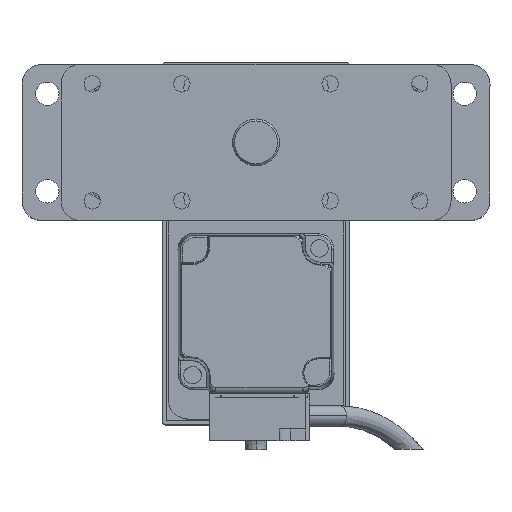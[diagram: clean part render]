
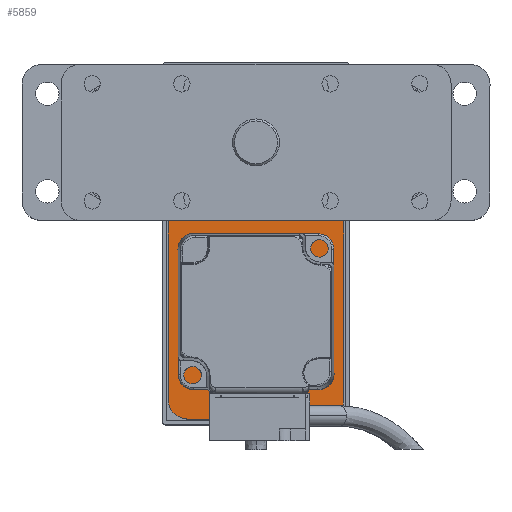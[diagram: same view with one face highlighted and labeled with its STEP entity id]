
A CAD part, top view. The second image highlights one B-rep face of the part: STEP entity #5859.
In plain terms, the highlighted planar face has unit normal (0, 0, 1).
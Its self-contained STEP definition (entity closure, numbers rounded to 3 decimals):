
#392 = EDGE_CURVE ( 'NONE', #19801, #19580, #11770, .T. ) ;
#737 = ORIENTED_EDGE ( 'NONE', *, *, #6551, .T. ) ;
#802 = VECTOR ( 'NONE', #18304, 1000. ) ;
#1427 = CARTESIAN_POINT ( 'NONE',  ( 22.5, -45., 10. ) ) ;
#1587 = PLANE ( 'NONE',  #5575 ) ;
#1898 = DIRECTION ( 'NONE',  ( 0., 0., 1. ) ) ;
#2042 = CARTESIAN_POINT ( 'NONE',  ( 22.5, -40., 10. ) ) ;
#2904 = DIRECTION ( 'NONE',  ( 0., -1., 0. ) ) ;
#3470 = DIRECTION ( 'NONE',  ( 1., 0., 0. ) ) ;
#3873 = EDGE_LOOP ( 'NONE', ( #19071, #15922, #7098, #22520, #4823, #23550, #23201, #737 ) ) ;
#4367 = CIRCLE ( 'NONE', #28125, 5. ) ;
#4460 = VERTEX_POINT ( 'NONE', #2042 ) ;
#4823 = ORIENTED_EDGE ( 'NONE', *, *, #15568, .T. ) ;
#4951 = VERTEX_POINT ( 'NONE', #8221 ) ;
#4985 = DIRECTION ( 'NONE',  ( 0., 0., 1. ) ) ;
#5353 = DIRECTION ( 'NONE',  ( 1., 0., 0. ) ) ;
#5575 = AXIS2_PLACEMENT_3D ( 'NONE', #17065, #6271, #10315 ) ;
#5859 = ADVANCED_FACE ( 'NONE', ( #16576 ), #1587, .T. ) ;
#6116 = CIRCLE ( 'NONE', #15083, 5. ) ;
#6271 = DIRECTION ( 'NONE',  ( 0., 0., 1. ) ) ;
#6551 = EDGE_CURVE ( 'NONE', #19580, #4460, #9602, .T. ) ;
#6896 = CARTESIAN_POINT ( 'NONE',  ( 17.5, -45., 10. ) ) ;
#7098 = ORIENTED_EDGE ( 'NONE', *, *, #16864, .T. ) ;
#8221 = CARTESIAN_POINT ( 'NONE',  ( -17.5, 45., 10. ) ) ;
#9213 = CARTESIAN_POINT ( 'NONE',  ( 17.5, 45., 10. ) ) ;
#9301 = VERTEX_POINT ( 'NONE', #22098 ) ;
#9423 = EDGE_CURVE ( 'NONE', #4460, #9301, #22707, .T. ) ;
#9596 = DIRECTION ( 'NONE',  ( 1., 0., 0. ) ) ;
#9602 = CIRCLE ( 'NONE', #27671, 5. ) ;
#10315 = DIRECTION ( 'NONE',  ( 1., 0., 0. ) ) ;
#10533 = DIRECTION ( 'NONE',  ( 1., 0., 0. ) ) ;
#11461 = CARTESIAN_POINT ( 'NONE',  ( -17.5, 40., 10. ) ) ;
#11735 = CARTESIAN_POINT ( 'NONE',  ( 22.5, -45., 10. ) ) ;
#11770 = LINE ( 'NONE', #1427, #20057 ) ;
#11992 = CARTESIAN_POINT ( 'NONE',  ( 17.5, -40., 10. ) ) ;
#12112 = EDGE_CURVE ( 'NONE', #26999, #19801, #12505, .T. ) ;
#12393 = DIRECTION ( 'NONE',  ( 1., 0., 0. ) ) ;
#12505 = CIRCLE ( 'NONE', #21165, 5. ) ;
#12885 = DIRECTION ( 'NONE',  ( -1., 0., 0. ) ) ;
#12925 = LINE ( 'NONE', #19698, #25475 ) ;
#15054 = LINE ( 'NONE', #22668, #17474 ) ;
#15083 = AXIS2_PLACEMENT_3D ( 'NONE', #11461, #4985, #9596 ) ;
#15345 = CARTESIAN_POINT ( 'NONE',  ( -22.5, 40., 10. ) ) ;
#15568 = EDGE_CURVE ( 'NONE', #28629, #26999, #15054, .T. ) ;
#15922 = ORIENTED_EDGE ( 'NONE', *, *, #26244, .T. ) ;
#16576 = FACE_OUTER_BOUND ( 'NONE', #3873, .T. ) ;
#16864 = EDGE_CURVE ( 'NONE', #22659, #4951, #12925, .T. ) ;
#17065 = CARTESIAN_POINT ( 'NONE',  ( 0., 0., 10. ) ) ;
#17177 = CARTESIAN_POINT ( 'NONE',  ( 17.5, 40., 10. ) ) ;
#17474 = VECTOR ( 'NONE', #2904, 1000. ) ;
#17985 = CARTESIAN_POINT ( 'NONE',  ( -22.5, -40., 10. ) ) ;
#18304 = DIRECTION ( 'NONE',  ( 0., 1., 0. ) ) ;
#19071 = ORIENTED_EDGE ( 'NONE', *, *, #9423, .T. ) ;
#19156 = CARTESIAN_POINT ( 'NONE',  ( -17.5, -45., 10. ) ) ;
#19580 = VERTEX_POINT ( 'NONE', #6896 ) ;
#19698 = CARTESIAN_POINT ( 'NONE',  ( 22.5, 45., 10. ) ) ;
#19801 = VERTEX_POINT ( 'NONE', #19156 ) ;
#20057 = VECTOR ( 'NONE', #3470, 1000. ) ;
#20722 = DIRECTION ( 'NONE',  ( 0., 0., 1. ) ) ;
#21165 = AXIS2_PLACEMENT_3D ( 'NONE', #25643, #27663, #12393 ) ;
#22098 = CARTESIAN_POINT ( 'NONE',  ( 22.5, 40., 10. ) ) ;
#22520 = ORIENTED_EDGE ( 'NONE', *, *, #26447, .T. ) ;
#22659 = VERTEX_POINT ( 'NONE', #9213 ) ;
#22668 = CARTESIAN_POINT ( 'NONE',  ( -22.5, -45., 10. ) ) ;
#22707 = LINE ( 'NONE', #11735, #802 ) ;
#23201 = ORIENTED_EDGE ( 'NONE', *, *, #392, .T. ) ;
#23550 = ORIENTED_EDGE ( 'NONE', *, *, #12112, .T. ) ;
#25475 = VECTOR ( 'NONE', #12885, 1000. ) ;
#25643 = CARTESIAN_POINT ( 'NONE',  ( -17.5, -40., 10. ) ) ;
#26244 = EDGE_CURVE ( 'NONE', #9301, #22659, #4367, .T. ) ;
#26447 = EDGE_CURVE ( 'NONE', #4951, #28629, #6116, .T. ) ;
#26999 = VERTEX_POINT ( 'NONE', #17985 ) ;
#27663 = DIRECTION ( 'NONE',  ( 0., 0., 1. ) ) ;
#27671 = AXIS2_PLACEMENT_3D ( 'NONE', #11992, #20722, #5353 ) ;
#28125 = AXIS2_PLACEMENT_3D ( 'NONE', #17177, #1898, #10533 ) ;
#28629 = VERTEX_POINT ( 'NONE', #15345 ) ;
